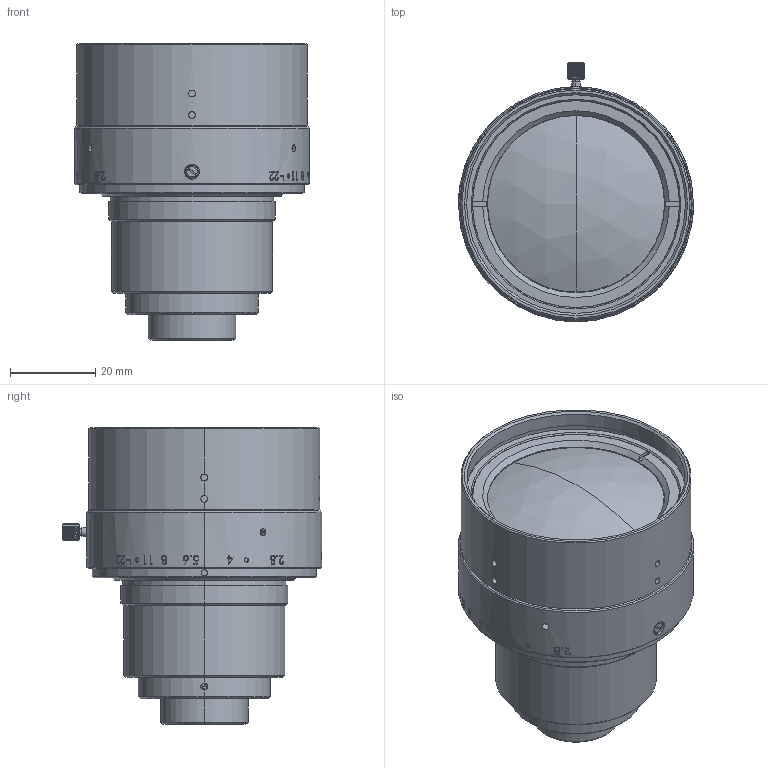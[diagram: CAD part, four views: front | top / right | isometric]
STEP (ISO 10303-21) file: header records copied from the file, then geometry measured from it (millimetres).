
FILE_DESCRIPTION (( 'STEP AP203' ), '1' );
FILE_NAME ('3d_C-ML-2828-35M39_a001.STEP', '2023-10-12T04:32:48', ( '' ), ( '' ), 'SwSTEP 2.0', 'SolidWorks 2020', '' );
FILE_SCHEMA (( 'CONFIG_CONTROL_DESIGN' ));
Length unit declared in the file: millimetre
Products named in the file (1): 3d_C-ML-2828-35M39_a001
Bounding box: 55 x 60.75 x 69.5 mm (x, y, z)
Volume: 103057.6 mm3; surface area: 17243.9 mm2
Topology: 1 solids, 1 shells, 669 faces, 1742 edges, 1145 vertices
Faces by surface type: cylinder 221, bspline 210, plane 184, cone 50, sphere 4
Entity records: 40980 total; most frequent: CARTESIAN_POINT 26784, ORIENTED_EDGE 3484, DIRECTION 1980, EDGE_CURVE 1742, VERTEX_POINT 1145, B_SPLINE_CURVE_WITH_KNOTS 974, AXIS2_PLACEMENT_3D 763, EDGE_LOOP 739
